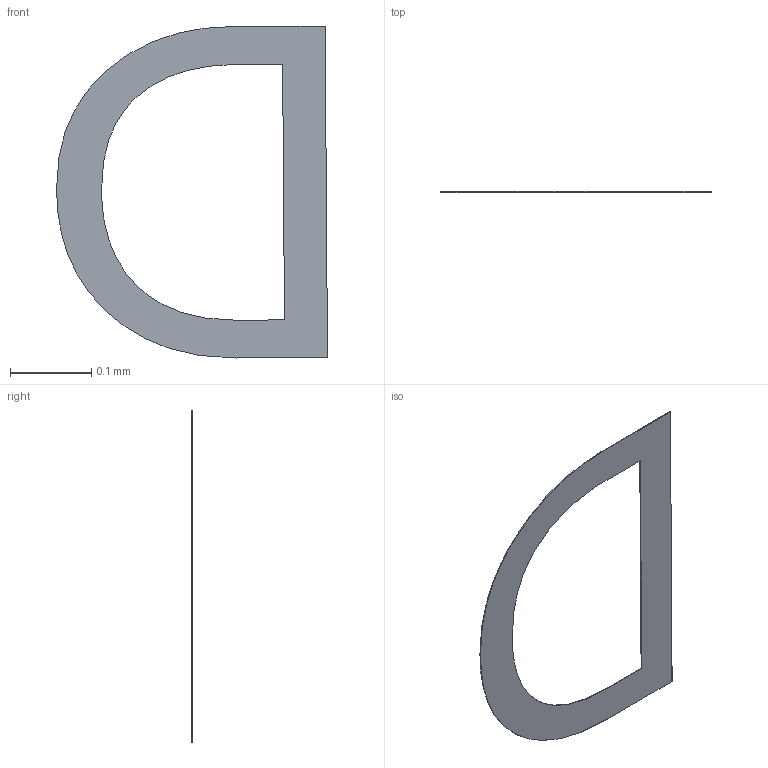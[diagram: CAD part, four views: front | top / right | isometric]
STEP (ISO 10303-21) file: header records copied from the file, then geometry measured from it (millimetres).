
FILE_DESCRIPTION(/* description */ ('STEP AP242 Edition 2','CAx-IF Rec.Pracs.---Representation and Presentation of Product Manufacturing Information (PMI)---4.0---2014-10-13','CAx-IF Rec.Pracs.---3D Tessellated Geometry---0.4---2014-09-14','2;1','CAx-IF Rec.Pracs.---User Defined Attributes---1.5---2016-08-15'),/* implementation_level */ '2;1');
FILE_NAME(/* name */ 'Assembly 1 - SW-TH_EC11E18244A5~SW-TH_EC11E18244A5-L11.7-W12.0-H24.5-P2.5-LS14.5~nxQB (7)',/* time_stamp */ '2026-04-02T09:55:29Z',/* author */ (''),/* organization */ (''),/* preprocessor_version */ 'ST-DEVELOPER v20',/* originating_system */ 'ONSHAPE BY PTC INC, 1.212',/* authorisation */ ' ');
FILE_SCHEMA (('AP242_MANAGED_MODEL_BASED_3D_ENGINEERING_MIM_LF { 1 0 10303 442 3 1 4 }'));
Length unit declared in the file: metre
Products named in the file (1): SW-TH_EC11E18244A5~SW-TH_EC11E18244A5-L11.7-W12.0-H24.5-P2.5-LS14.5~n
xQB
Bounding box: 0.33 x 0 x 0.41 mm (x, y, z)
Volume: 0 mm3; surface area: 0.1 mm2
Topology: 1 solids, 1 shells, 16 faces, 42 edges, 28 vertices
Faces by surface type: bspline 8, plane 8
Entity records: 673 total; most frequent: CARTESIAN_POINT 191, ORIENTED_EDGE 84, DIRECTION 44, EDGE_CURVE 42, VERTEX_POINT 28, LINE 26, VECTOR 26, EDGE_LOOP 18
